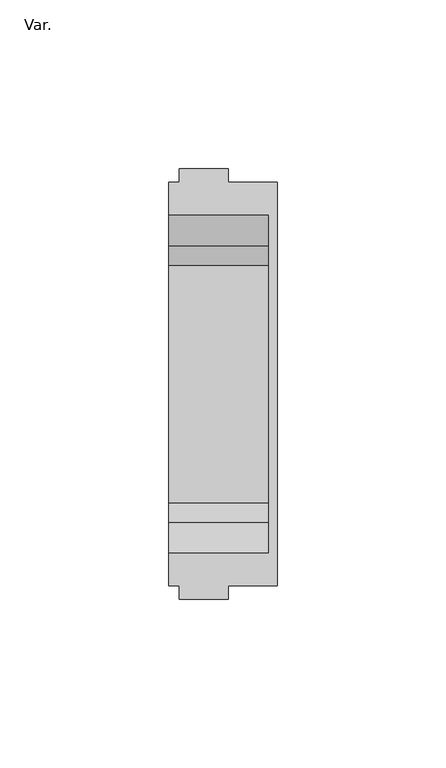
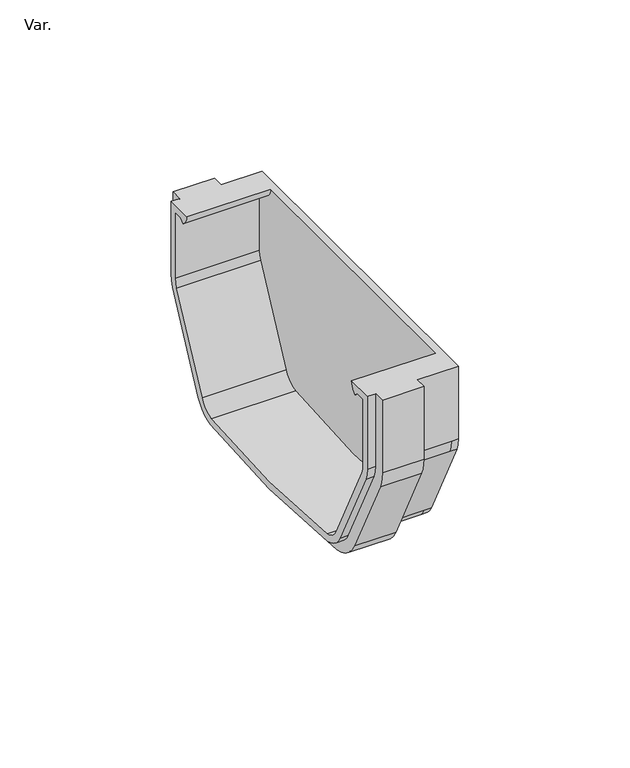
"""IFC4 building model written with IfcOpenShell, lengths in millimetres: pipe fitting geometry, PavcoWavin_UnionesDeTuberia_ZCanal Raingo_Tapa Externa_NoUsarUnion : Var.."""

from ifc_helpers import new_model, si_unit, frame, origin, place, context, project, spatial, polyline, circle_curve, source, transform, mapped, element, save
from ifc_brep_helpers import plane_surface, cylinder_surface, revolved_surface, advanced_brep


def var_6b851b41(model_context):
    return source(origin(), model_context, "Body", "AdvancedBrep", [
        advanced_brep(
        [(3.0, 59.65, 74.30297), (3.0, 63.65, 74.30297), (3.0, 63.65, 47.349975), (3.0, 62.3505519, 41.3222652), (3.0, 46.7108918, 9.9822491), (3.0, 36.1652462, 2.1078834), (3.0, -36.1652462, 2.1078834), (3.0, -46.7108918, 9.9822491), (3.0, -62.3505519, 41.3222652), (3.0, -63.65, 47.349975), (3.0, -63.65, 74.30297), (3.0, -59.65, 74.30297), (3.0, -59.65, 47.349975), (3.0, -58.7346069, 43.0345014), (3.0, -43.1317978, 11.7683303), (3.0, -35.5756149, 6.0662115), (3.0, 35.5756149, 6.0662115), (3.0, 43.1317978, 11.7683303), (3.0, 58.7346069, 43.0345014), (3.0, 59.65, 47.349975), (17.5, -63.65, 74.30297), (17.5, -59.65, 74.30297), (32.0, -59.65, 74.30297), (32.0, 59.65, 74.30297), (17.5, 59.65, 74.30297), (17.5, 63.65, 74.30297), (0.0, 59.65, 74.30297), (0.0, 50.15, 74.30297), (29.5, 50.15, 74.30297), (29.5, -50.15, 74.30297), (0.0, -50.15, 74.30297), (0.0, -59.65, 74.30297), (17.5, -63.65, 47.349975), (17.5, -62.3505519, 41.3222652), (17.5, -46.7108918, 9.9822491), (17.5, -36.1652462, 2.1078834), (17.5, 36.1652462, 2.1078834), (17.5, 46.7108918, 9.9822491), (17.5, 62.3505519, 41.3222652), (17.5, 63.65, 47.349975), (17.5, 59.65, 47.349975), (17.5, 58.7346069, 43.0345014), (17.5, 43.1317978, 11.7683303), (17.5, 35.5756149, 6.0662115), (17.5, -35.5756149, 6.0662115), (17.5, -43.1317978, 11.7683303), (17.5, -58.7346069, 43.0345014), (17.5, -59.65, 47.349975), (0.0, -52.2524004, 70.5325786), (0.0, -53.766394, 71.80297), (0.0, -57.15, 71.80297), (0.0, -57.15, 47.349975), (0.0, -56.4709703, 44.0972929), (0.0, -40.8948641, 12.8846311), (0.0, -35.1949678, 8.5387835), (0.0, 35.1949678, 8.5387835), (0.0, 40.8948641, 12.8846311), (0.0, 56.4709703, 44.0972929), (0.0, 57.15, 47.349975), (0.0, 57.15, 71.80297), (0.0, 53.766394, 71.80297), (0.0, 52.2524004, 70.5325786), (0.0, 59.65, 47.349975), (0.0, 58.7346069, 43.0345014), (0.0, 43.1317978, 11.7683303), (0.0, 35.5756149, 6.0662115), (0.0, -35.5756149, 6.0662115), (0.0, -43.1317978, 11.7683303), (0.0, -58.7346069, 43.0345014), (0.0, -59.65, 47.349975), (29.5, -59.65, 47.349975), (32.0, -59.65, 47.349975), (29.5, -58.7346069, 43.0345014), (29.5, -43.1317978, 11.7683303), (32.0, -43.1317978, 11.7683303), (32.0, -58.7346069, 43.0345014), (29.5, -35.5756149, 6.0662115), (29.5, 35.5756149, 6.0662115), (29.5, 43.1317978, 11.7683303), (29.5, 58.7346069, 43.0345014), (32.0, 58.7346069, 43.0345014), (32.0, 43.1317978, 11.7683303), (29.5, 59.65, 47.349975), (32.0, 59.65, 47.349975), (29.5, 52.2524004, 70.5325786), (29.5, 53.766394, 71.80297), (29.5, 57.15, 71.80297), (29.5, 57.15, 47.349975), (29.5, 56.4709703, 44.0972929), (29.5, 40.8948641, 12.8846311), (29.5, 35.1949678, 8.5387835), (29.5, -35.1949678, 8.5387835), (29.5, -40.8948641, 12.8846311), (29.5, -56.4709703, 44.0972929), (29.5, -57.15, 47.349975), (29.5, -57.15, 71.80297), (29.5, -53.766394, 71.80297), (29.5, -52.2524004, 70.5325786), (32.0, -35.5756149, 6.0662115), (32.0, 35.5756149, 6.0662115)],
        [
            (0, 1),
            (1, 2),
            (2, 3, circle_curve(frame((3.0, 49.02, 47.349975), z_axis=(-1.0, 0.0, 0.0), x_axis=(0.0, -1.0, 0.0)), 14.63)),
            (3, 4),
            (4, 5, circle_curve(frame((3.0, 33.6203555, 16.5148411), z_axis=(-1.0, 0.0, 0.0), x_axis=(0.0, -1.0, 0.0)), 14.63)),
            (5, 6, circle_curve(frame((3.0, 0.0, 311.3), z_axis=(-1.0, 0.0, 0.0), x_axis=(0.0, -1.0, 0.0)), 311.3)),
            (6, 7, circle_curve(frame((3.0, -33.6203555, 16.5148411), z_axis=(-1.0, 0.0, 0.0), x_axis=(0.0, -1.0, 0.0)), 14.63)),
            (7, 8),
            (8, 9, circle_curve(frame((3.0, -49.02, 47.349975), z_axis=(-1.0, 0.0, 0.0), x_axis=(0.0, -1.0, 0.0)), 14.63)),
            (9, 10),
            (10, 11),
            (11, 12),
            (12, 13, circle_curve(frame((3.0, -49.02, 47.349975), z_axis=(1.0, 0.0, 0.0), x_axis=(0.0, -1.0, 0.0)), 10.63)),
            (13, 14),
            (14, 15, circle_curve(frame((3.0, -33.6203555, 16.5148411), z_axis=(1.0, 0.0, 0.0), x_axis=(0.0, -1.0, 0.0)), 10.63)),
            (15, 16, circle_curve(frame((3.0, 0.0, 311.3), z_axis=(1.0, 0.0, 0.0), x_axis=(0.0, -1.0, 0.0)), 307.3)),
            (16, 17, circle_curve(frame((3.0, 33.6203555, 16.5148411), z_axis=(1.0, 0.0, 0.0), x_axis=(0.0, 1.0, 0.0)), 10.63)),
            (17, 18),
            (18, 19, circle_curve(frame((3.0, 49.02, 47.349975), z_axis=(1.0, 0.0, 0.0), x_axis=(0.0, 1.0, 0.0)), 10.63)),
            (19, 0),
            (10, 20),
            (20, 21),
            (21, 22),
            (22, 23),
            (23, 24),
            (24, 25),
            (25, 1),
            (0, 26),
            (26, 27),
            (27, 28),
            (28, 29),
            (29, 30),
            (30, 31),
            (31, 11),
            (9, 32),
            (32, 20),
            (8, 33),
            (33, 32, circle_curve(frame((17.5, -49.02, 47.349975), z_axis=(-1.0, 0.0, 0.0), x_axis=(0.0, -1.0, 0.0)), 14.63)),
            (7, 34),
            (34, 33),
            (6, 35),
            (35, 34, circle_curve(frame((17.5, -33.6203555, 16.5148411), z_axis=(-1.0, 0.0, 0.0), x_axis=(0.0, -1.0, 0.0)), 14.63)),
            (5, 36),
            (36, 35, circle_curve(frame((17.5, 0.0, 311.3), z_axis=(-1.0, 0.0, 0.0), x_axis=(0.0, -1.0, 0.0)), 311.3)),
            (4, 37),
            (37, 36, circle_curve(frame((17.5, 33.6203555, 16.5148411), z_axis=(-1.0, 0.0, 0.0), x_axis=(0.0, -1.0, 0.0)), 14.63)),
            (3, 38),
            (38, 37),
            (2, 39),
            (39, 38, circle_curve(frame((17.5, 49.02, 47.349975), z_axis=(-1.0, 0.0, 0.0), x_axis=(0.0, -1.0, 0.0)), 14.63)),
            (25, 39),
            (24, 40),
            (40, 41, circle_curve(frame((17.5, 49.02, 47.349975), z_axis=(-1.0, 0.0, 0.0), x_axis=(0.0, 1.0, 0.0)), 10.63)),
            (41, 42),
            (42, 43, circle_curve(frame((17.5, 33.6203555, 16.5148411), z_axis=(-1.0, 0.0, 0.0), x_axis=(0.0, 1.0, 0.0)), 10.63)),
            (43, 44, circle_curve(frame((17.5, 0.0, 311.3), z_axis=(-1.0, 0.0, 0.0), x_axis=(0.0, -1.0, 0.0)), 307.3)),
            (44, 45, circle_curve(frame((17.5, -33.6203555, 16.5148411), z_axis=(-1.0, 0.0, 0.0), x_axis=(0.0, -1.0, 0.0)), 10.63)),
            (45, 46),
            (46, 47, circle_curve(frame((17.5, -49.02, 47.349975), z_axis=(-1.0, 0.0, 0.0), x_axis=(0.0, -1.0, 0.0)), 10.63)),
            (47, 21),
            (30, 48, circle_curve(frame((0.0, -55.1403012, 74.6142485), z_axis=(-1.0, 0.0, 0.0), x_axis=(0.0, -1.0, 0.0)), 5.0)),
            (48, 49),
            (49, 50),
            (50, 51),
            (51, 52, circle_curve(frame((0.0, -49.02, 47.349975), z_axis=(1.0, 0.0, 0.0), x_axis=(0.0, -1.0, 0.0)), 8.13)),
            (52, 53),
            (53, 54, circle_curve(frame((0.0, -33.6203555, 16.5148411), z_axis=(1.0, 0.0, 0.0), x_axis=(0.0, -1.0, 0.0)), 8.13)),
            (54, 55, circle_curve(frame((0.0, 0.0, 311.3), z_axis=(1.0, 0.0, 0.0), x_axis=(0.0, -1.0, 0.0)), 304.8)),
            (55, 56, circle_curve(frame((0.0, 33.6203555, 16.5148411), z_axis=(1.0, 0.0, 0.0), x_axis=(0.0, 1.0, 0.0)), 8.13)),
            (56, 57),
            (57, 58, circle_curve(frame((0.0, 49.02, 47.349975), z_axis=(1.0, 0.0, 0.0), x_axis=(0.0, 1.0, 0.0)), 8.13)),
            (58, 59),
            (59, 60),
            (60, 61),
            (61, 27, circle_curve(frame((0.0, 55.1403012, 74.6142485), z_axis=(-1.0, 0.0, 0.0), x_axis=(0.0, 1.0, 0.0)), 5.0)),
            (26, 62),
            (62, 63, circle_curve(frame((0.0, 49.02, 47.349975), z_axis=(-1.0, 0.0, 0.0), x_axis=(0.0, 1.0, 0.0)), 10.63)),
            (63, 64),
            (64, 65, circle_curve(frame((0.0, 33.6203555, 16.5148411), z_axis=(-1.0, 0.0, 0.0), x_axis=(0.0, 1.0, 0.0)), 10.63)),
            (65, 66, circle_curve(frame((0.0, 0.0, 311.3), z_axis=(-1.0, 0.0, 0.0), x_axis=(0.0, -1.0, 0.0)), 307.3)),
            (66, 67, circle_curve(frame((0.0, -33.6203555, 16.5148411), z_axis=(-1.0, 0.0, 0.0), x_axis=(0.0, -1.0, 0.0)), 10.63)),
            (67, 68),
            (68, 69, circle_curve(frame((0.0, -49.02, 47.349975), z_axis=(-1.0, 0.0, 0.0), x_axis=(0.0, -1.0, 0.0)), 10.63)),
            (69, 31),
            (69, 12),
            (47, 70),
            (70, 71),
            (71, 22),
            (68, 13),
            (46, 72),
            (72, 70, circle_curve(frame((29.5, -49.02, 47.349975), z_axis=(-1.0, 0.0, 0.0), x_axis=(0.0, -1.0, 0.0)), 10.63)),
            (67, 14),
            (45, 73),
            (73, 74),
            (74, 75),
            (75, 72),
            (66, 15),
            (44, 76),
            (76, 73, circle_curve(frame((29.5, -33.6203555, 16.5148411), z_axis=(-1.0, 0.0, 0.0), x_axis=(0.0, -1.0, 0.0)), 10.63)),
            (65, 16),
            (43, 77),
            (77, 76, circle_curve(frame((29.5, 0.0, 311.3), z_axis=(-1.0, 0.0, 0.0), x_axis=(0.0, -1.0, 0.0)), 307.3)),
            (64, 17),
            (42, 78),
            (78, 77, circle_curve(frame((29.5, 33.6203555, 16.5148411), z_axis=(-1.0, 0.0, 0.0), x_axis=(0.0, 1.0, 0.0)), 10.63)),
            (63, 18),
            (41, 79),
            (79, 80),
            (80, 81),
            (81, 78),
            (62, 19),
            (40, 82),
            (82, 79, circle_curve(frame((29.5, 49.02, 47.349975), z_axis=(-1.0, 0.0, 0.0), x_axis=(0.0, 1.0, 0.0)), 10.63)),
            (23, 83),
            (83, 82),
            (61, 84),
            (84, 28, circle_curve(frame((29.5, 55.1403012, 74.6142485), z_axis=(-1.0, 0.0, 0.0), x_axis=(0.0, 1.0, 0.0)), 5.0)),
            (60, 85),
            (85, 84),
            (59, 86),
            (86, 85),
            (58, 87),
            (87, 86),
            (57, 88),
            (88, 87, circle_curve(frame((29.5, 49.02, 47.349975), z_axis=(1.0, 0.0, 0.0), x_axis=(0.0, 1.0, 0.0)), 8.13)),
            (56, 89),
            (89, 88),
            (55, 90),
            (90, 89, circle_curve(frame((29.5, 33.6203555, 16.5148411), z_axis=(1.0, 0.0, 0.0), x_axis=(0.0, 1.0, 0.0)), 8.13)),
            (54, 91),
            (91, 90, circle_curve(frame((29.5, 0.0, 311.3), z_axis=(1.0, 0.0, 0.0), x_axis=(0.0, -1.0, 0.0)), 304.8)),
            (53, 92),
            (92, 91, circle_curve(frame((29.5, -33.6203555, 16.5148411), z_axis=(1.0, 0.0, 0.0), x_axis=(0.0, -1.0, 0.0)), 8.13)),
            (52, 93),
            (93, 92),
            (51, 94),
            (94, 93, circle_curve(frame((29.5, -49.02, 47.349975), z_axis=(1.0, 0.0, 0.0), x_axis=(0.0, -1.0, 0.0)), 8.13)),
            (50, 95),
            (95, 94),
            (49, 96),
            (96, 95),
            (48, 97),
            (97, 96),
            (29, 97, circle_curve(frame((29.5, -55.1403012, 74.6142485), z_axis=(-1.0, 0.0, 0.0), x_axis=(0.0, -1.0, 0.0)), 5.0)),
            (71, 75, circle_curve(frame((32.0, -49.02, 47.349975), z_axis=(1.0, 0.0, 0.0), x_axis=(0.0, -1.0, 0.0)), 10.63)),
            (74, 98, circle_curve(frame((32.0, -33.6203555, 16.5148411), z_axis=(1.0, 0.0, 0.0), x_axis=(0.0, -1.0, 0.0)), 10.63)),
            (98, 99, circle_curve(frame((32.0, 0.0, 311.3), z_axis=(1.0, 0.0, 0.0), x_axis=(0.0, -1.0, 0.0)), 307.3)),
            (99, 81, circle_curve(frame((32.0, 33.6203555, 16.5148411), z_axis=(1.0, 0.0, 0.0), x_axis=(0.0, -1.0, 0.0)), 10.63)),
            (80, 83, circle_curve(frame((32.0, 49.02, 47.349975), z_axis=(1.0, 0.0, 0.0), x_axis=(0.0, -1.0, 0.0)), 10.63)),
            (76, 98),
            (77, 99),
        ],
        [
            plane_surface(frame((3.0, 59.65, 69.80297), z_axis=(-1.0, 0.0, 0.0), x_axis=(0.0, 0.0, 1.0))),
            plane_surface(frame((29.5, -59.65, 74.30297), z_axis=(0.0, 0.0, 1.0), x_axis=(-1.0, 0.0, 0.0))),
            plane_surface(frame((29.5, -63.65, 74.30297), z_axis=(0.0, -1.0, 0.0), x_axis=(-1.0, 0.0, 0.0))),
            cylinder_surface(frame((3.0, -49.02, 47.349975), z_axis=(1.0, 0.0, 0.0), x_axis=(0.0, -1.0, 0.0)), 14.63),
            plane_surface(frame((29.5, -62.3505519, 41.3222652), z_axis=(0.0, -0.8947735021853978, -0.4465203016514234), x_axis=(-1.0, 0.0, 0.0))),
            cylinder_surface(frame((3.0, -33.6203555, 16.5148411), z_axis=(1.0, 0.0, 0.0), x_axis=(0.0, -1.0, 0.0)), 14.63),
            cylinder_surface(frame((3.0, 0.0, 311.3), z_axis=(1.0, 0.0, 0.0), x_axis=(0.0, -1.0, 0.0)), 311.3),
            cylinder_surface(frame((3.0, 33.6203555, 16.5148411), z_axis=(1.0, 0.0, 0.0), x_axis=(0.0, -1.0, 0.0)), 14.63),
            plane_surface(frame((29.5, 46.7108918, 9.9822491), z_axis=(0.0, 0.8947735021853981, -0.4465203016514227), x_axis=(-1.0, 0.0, 0.0))),
            cylinder_surface(frame((3.0, 49.02, 47.349975), z_axis=(1.0, 0.0, 0.0), x_axis=(0.0, -1.0, 0.0)), 14.63),
            plane_surface(frame((29.5, 63.65, 47.349975), z_axis=(0.0, 1.0, 0.0), x_axis=(-1.0, 0.0, 0.0))),
            plane_surface(frame((17.5, 59.65, 69.80297), z_axis=(1.0, 0.0, 0.0), x_axis=(0.0, 0.0, 1.0))),
            plane_surface(frame((0.0, -59.65, 74.30297), z_axis=(-1.0, 0.0, 0.0), x_axis=(0.0, 1.0, 0.0))),
            plane_surface(frame((29.5, -59.65, 74.30297), z_axis=(0.0, -1.0, 0.0), x_axis=(-1.0, 0.0, 0.0))),
            cylinder_surface(frame((0.0, -49.02, 47.349975), z_axis=(1.0, 0.0, 0.0), x_axis=(0.0, -1.0, 0.0)), 10.63),
            plane_surface(frame((29.5, -58.7346069, 43.0345014), z_axis=(0.0, -0.8947735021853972, -0.44652030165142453), x_axis=(-1.0, 0.0, 0.0))),
            cylinder_surface(frame((0.0, -33.6203555, 16.5148411), z_axis=(1.0, 0.0, 0.0), x_axis=(0.0, -1.0, 0.0)), 10.63),
            cylinder_surface(frame((0.0, 0.0, 311.3), z_axis=(1.0, 0.0, 0.0), x_axis=(0.0, -1.0, 0.0)), 307.3),
            cylinder_surface(frame((0.0, 33.6203555, 16.5148411), z_axis=(1.0, 0.0, 0.0), x_axis=(0.0, 1.0, 0.0)), 10.63),
            plane_surface(frame((29.5, 43.1317978, 11.7683303), z_axis=(0.0, 0.8947735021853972, -0.4465203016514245), x_axis=(-1.0, 0.0, 0.0))),
            cylinder_surface(frame((0.0, 49.02, 47.349975), z_axis=(1.0, 0.0, 0.0), x_axis=(0.0, 1.0, 0.0)), 10.63),
            plane_surface(frame((29.5, 59.65, 47.349975), z_axis=(0.0, 1.0, 0.0), x_axis=(-1.0, 0.0, 0.0))),
            cylinder_surface(frame((0.0, 55.1403012, 74.6142485), z_axis=(1.0, 0.0, 0.0), x_axis=(0.0, 1.0, 0.0)), 5.0),
            plane_surface(frame((29.5, 52.2524004, 70.5325786), z_axis=(0.0, 0.642787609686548, -0.7660444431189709), x_axis=(-1.0, 0.0, 0.0))),
            plane_surface(frame((29.5, 53.766394, 71.80297), z_axis=(0.0, 0.0, -1.0), x_axis=(-1.0, 0.0, 0.0))),
            plane_surface(frame((29.5, 57.15, 71.80297), z_axis=(0.0, -1.0, 0.0), x_axis=(-1.0, 0.0, 0.0))),
            revolved_surface(polyline([(0.0, 57.150000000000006, 47.349975), (29.5, 57.150000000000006, 47.349975)]), (0.0, 49.02, 47.349975), (-1.0, 0.0, 0.0)),
            plane_surface(frame((29.5, 56.4709703, 44.0972929), z_axis=(0.0, -0.8947735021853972, 0.44652030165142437), x_axis=(-1.0, 0.0, 0.0))),
            revolved_surface(polyline([(0.0, 41.750355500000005, 16.5148411), (29.5, 41.750355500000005, 16.5148411)]), (0.0, 33.6203555, 16.5148411), (-1.0, 0.0, 0.0)),
            revolved_surface(polyline([(0.0, -304.8, 311.3), (29.5, -304.8, 311.3)]), (0.0, 0.0, 311.3), (-1.0, 0.0, 0.0)),
            revolved_surface(polyline([(0.0, -41.750355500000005, 16.5148411), (29.5, -41.750355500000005, 16.5148411)]), (0.0, -33.6203555, 16.5148411), (-1.0, 0.0, 0.0)),
            plane_surface(frame((29.5, -40.8948641, 12.8846311), z_axis=(0.0, 0.8947735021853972, 0.44652030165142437), x_axis=(-1.0, 0.0, 0.0))),
            revolved_surface(polyline([(0.0, -57.150000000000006, 47.349975), (29.5, -57.150000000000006, 47.349975)]), (0.0, -49.02, 47.349975), (-1.0, 0.0, 0.0)),
            plane_surface(frame((29.5, -57.15, 47.349975), z_axis=(0.0, 1.0, 0.0), x_axis=(-1.0, 0.0, 0.0))),
            plane_surface(frame((29.5, -57.15, 71.80297), z_axis=(0.0, 0.0, -1.0), x_axis=(-1.0, 0.0, 0.0))),
            plane_surface(frame((29.5, -53.766394, 71.80297), z_axis=(0.0, -0.6427876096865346, -0.7660444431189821), x_axis=(-1.0, 0.0, 0.0))),
            cylinder_surface(frame((0.0, -55.1403012, 74.6142485), z_axis=(1.0, 0.0, 0.0), x_axis=(0.0, -1.0, 0.0)), 5.0),
            plane_surface(frame((32.0, -59.65, 74.30297), z_axis=(1.0, 0.0, 0.0), x_axis=(0.0, 0.0, -1.0))),
            plane_surface(frame((29.5, -59.65, 74.30297), z_axis=(-1.0, 0.0, 0.0), x_axis=(0.0, 0.0, 1.0))),
            cylinder_surface(frame((29.5, -49.02, 47.349975), z_axis=(1.0, 0.0, 0.0), x_axis=(0.0, -1.0, 0.0)), 10.63),
            cylinder_surface(frame((29.5, -33.6203555, 16.5148411), z_axis=(1.0, 0.0, 0.0), x_axis=(0.0, -1.0, 0.0)), 10.63),
            cylinder_surface(frame((29.5, 0.0, 311.3), z_axis=(1.0, 0.0, 0.0), x_axis=(0.0, -1.0, 0.0)), 307.3),
            cylinder_surface(frame((29.5, 33.6203555, 16.5148411), z_axis=(1.0, 0.0, 0.0), x_axis=(0.0, -1.0, 0.0)), 10.63),
            cylinder_surface(frame((29.5, 49.02, 47.349975), z_axis=(1.0, 0.0, 0.0), x_axis=(0.0, -1.0, 0.0)), 10.63),
        ],
        [
            (0, [[1, 2, 3, 4, 5, 6, 7, 8, 9, 10, 11, 12, 13, 14, 15, 16, 17, 18, 19, 20]]),
            (1, [[-11, 21, 22, 23, 24, 25, 26, 27, -1, 28, 29, 30, 31, 32, 33, 34]]),
            (2, [[-10, 35, 36, -21]]),
            (3, [[-9, 37, 38, -35]]),
            (4, [[-8, 39, 40, -37]]),
            (5, [[-7, 41, 42, -39]]),
            (6, [[-6, 43, 44, -41]]),
            (7, [[-5, 45, 46, -43]]),
            (8, [[-4, 47, 48, -45]]),
            (9, [[-3, 49, 50, -47]]),
            (10, [[-2, -27, 51, -49]]),
            (11, [[-22, -36, -38, -40, -42, -44, -46, -48, -50, -51, -26, 52, 53, 54, 55, 56, 57, 58, 59, 60]]),
            (12, [[61, 62, 63, 64, 65, 66, 67, 68, 69, 70, 71, 72, 73, 74, 75, -29, 76, 77, 78, 79, 80, 81, 82, 83, 84, -33]]),
            (13, [[-84, 85, -12, -34]]),
            (13, [[86, 87, 88, -23, -60]]),
            (14, [[-83, 89, -13, -85]]),
            (14, [[90, 91, -86, -59]]),
            (15, [[-82, 92, -14, -89]]),
            (15, [[93, 94, 95, 96, -90, -58]]),
            (16, [[-81, 97, -15, -92]]),
            (16, [[98, 99, -93, -57]]),
            (17, [[-80, 100, -16, -97]]),
            (17, [[101, 102, -98, -56]]),
            (18, [[-79, 103, -17, -100]]),
            (18, [[104, 105, -101, -55]]),
            (19, [[-78, 106, -18, -103]]),
            (19, [[107, 108, 109, 110, -104, -54]]),
            (20, [[-77, 111, -19, -106]]),
            (20, [[112, 113, -107, -53]]),
            (21, [[-76, -28, -20, -111]]),
            (21, [[-112, -52, -25, 114, 115]]),
            (22, [[-75, 116, 117, -30]]),
            (23, [[-74, 118, 119, -116]]),
            (24, [[-73, 120, 121, -118]]),
            (25, [[-72, 122, 123, -120]]),
            (26, [[-71, 124, 125, -122]]),
            (27, [[-70, 126, 127, -124]]),
            (28, [[-69, 128, 129, -126]]),
            (29, [[-68, 130, 131, -128]]),
            (30, [[-67, 132, 133, -130]]),
            (31, [[-66, 134, 135, -132]]),
            (32, [[-65, 136, 137, -134]]),
            (33, [[-64, 138, 139, -136]]),
            (34, [[-63, 140, 141, -138]]),
            (35, [[-62, 142, 143, -140]]),
            (36, [[-61, -32, 144, -142]]),
            (37, [[-88, 145, -95, 146, 147, 148, -109, 149, -114, -24]]),
            (38, [[-31, -117, -119, -121, -123, -125, -127, -129, -131, -133, -135, -137, -139, -141, -143, -144]]),
            (39, [[-145, -87, -91, -96]]),
            (40, [[-146, -94, -99, 150]]),
            (41, [[-147, -150, -102, 151]]),
            (42, [[-148, -151, -105, -110]]),
            (43, [[-149, -108, -113, -115]]),
        ],
    ),
    ])


if __name__ == "__main__":
    model = new_model("IFC4")
    model_context = context("Model", 3, world=origin())
    ifc_project = project(units=[si_unit("LENGTHUNIT", "METRE", prefix="MILLI")], contexts=[model_context])
    site = spatial("IfcSite", under=ifc_project)
    building = spatial("IfcBuilding", under=site)
    placement = place(None, origin())
    var_shape = var_6b851b41(model_context)
    element("IfcPipeFitting", 1, ObjectType="PavcoWavin_UnionesDeTuberia_ZCanal Raingo_Tapa Externa_NoUsarUnion : Var.", at=placement, inside=building, context=model_context, shape_type="MappedRepresentation", body=[
        mapped(var_shape, transform((0.0, 0.0, 0.0), x_axis=(1.0, 0.0, 0.0), y_axis=(0.0, 1.0, 0.0), z_axis=(0.0, 0.0, 1.0))),
    ])
    save(model, "model.ifc")
